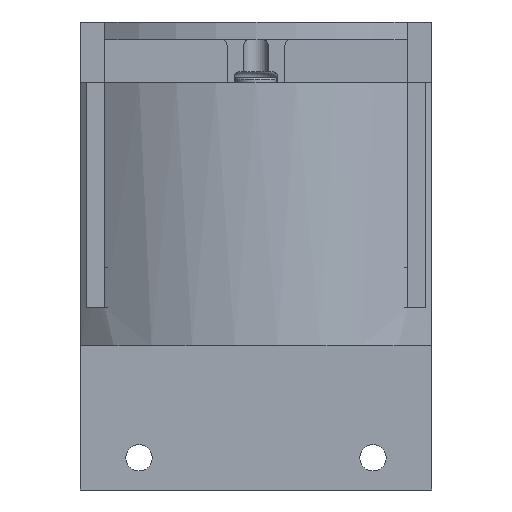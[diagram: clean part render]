
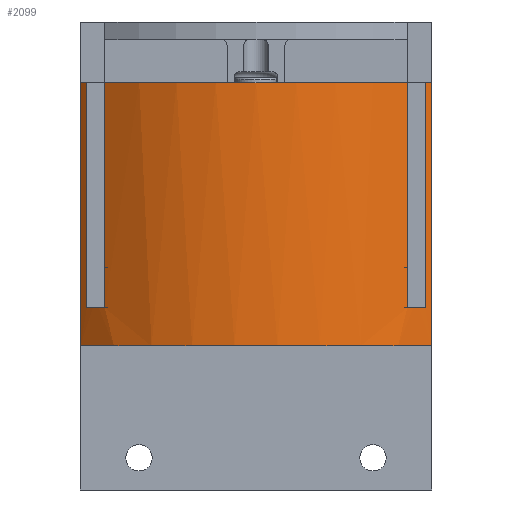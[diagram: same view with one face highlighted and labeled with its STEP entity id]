
A CAD part, front view. The second image highlights one B-rep face of the part: STEP entity #2099.
In plain terms, the highlighted cylindrical face has radius 43.5 mm (diameter 87 mm), a partial arc.
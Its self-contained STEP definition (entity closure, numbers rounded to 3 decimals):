
#123=CIRCLE('',#2337,43.5);
#126=CIRCLE('',#2342,43.5);
#129=CIRCLE('',#2349,43.5);
#130=CIRCLE('',#2350,43.5);
#139=CIRCLE('',#2378,43.5);
#140=CIRCLE('',#2382,43.5);
#207=CYLINDRICAL_SURFACE('',#2381,43.5);
#269=FACE_OUTER_BOUND('',#400,.T.);
#400=EDGE_LOOP('',(#1587,#1588,#1589,#1590,#1591,#1592,#1593,#1594,#1595,
#1596,#1597,#1598));
#500=LINE('',#3366,#695);
#506=LINE('',#3378,#701);
#530=LINE('',#3446,#725);
#558=LINE('',#3522,#753);
#559=LINE('',#3524,#754);
#561=LINE('',#3527,#756);
#695=VECTOR('',#2608,10.);
#701=VECTOR('',#2616,10.);
#725=VECTOR('',#2674,10.);
#753=VECTOR('',#2756,10.);
#754=VECTOR('',#2759,10.);
#756=VECTOR('',#2763,10.);
#895=VERTEX_POINT('',#3362);
#897=VERTEX_POINT('',#3365);
#900=VERTEX_POINT('',#3372);
#902=VERTEX_POINT('',#3376);
#905=VERTEX_POINT('',#3384);
#911=VERTEX_POINT('',#3401);
#919=VERTEX_POINT('',#3421);
#920=VERTEX_POINT('',#3423);
#923=VERTEX_POINT('',#3430);
#924=VERTEX_POINT('',#3432);
#929=VERTEX_POINT('',#3444);
#950=VERTEX_POINT('',#3518);
#1108=EDGE_CURVE('',#897,#895,#500,.T.);
#1114=EDGE_CURVE('',#900,#902,#506,.T.);
#1118=EDGE_CURVE('',#905,#895,#123,.T.);
#1126=EDGE_CURVE('',#900,#911,#126,.T.);
#1137=EDGE_CURVE('',#920,#919,#129,.T.);
#1142=EDGE_CURVE('',#924,#923,#130,.T.);
#1149=EDGE_CURVE('',#919,#929,#530,.T.);
#1186=EDGE_CURVE('',#950,#929,#139,.T.);
#1187=EDGE_CURVE('',#905,#920,#558,.T.);
#1188=EDGE_CURVE('',#923,#911,#559,.T.);
#1190=EDGE_CURVE('',#950,#924,#561,.T.);
#1191=EDGE_CURVE('',#897,#902,#140,.T.);
#1587=ORIENTED_EDGE('',*,*,#1108,.T.);
#1588=ORIENTED_EDGE('',*,*,#1118,.F.);
#1589=ORIENTED_EDGE('',*,*,#1187,.T.);
#1590=ORIENTED_EDGE('',*,*,#1137,.T.);
#1591=ORIENTED_EDGE('',*,*,#1149,.T.);
#1592=ORIENTED_EDGE('',*,*,#1186,.F.);
#1593=ORIENTED_EDGE('',*,*,#1190,.T.);
#1594=ORIENTED_EDGE('',*,*,#1142,.T.);
#1595=ORIENTED_EDGE('',*,*,#1188,.T.);
#1596=ORIENTED_EDGE('',*,*,#1126,.F.);
#1597=ORIENTED_EDGE('',*,*,#1114,.T.);
#1598=ORIENTED_EDGE('',*,*,#1191,.F.);
#2099=ADVANCED_FACE('',(#269),#207,.T.);
#2337=AXIS2_PLACEMENT_3D('',#3386,#2622,#2623);
#2342=AXIS2_PLACEMENT_3D('',#3402,#2637,#2638);
#2349=AXIS2_PLACEMENT_3D('',#3424,#2657,#2658);
#2350=AXIS2_PLACEMENT_3D('',#3433,#2663,#2664);
#2378=AXIS2_PLACEMENT_3D('',#3520,#2752,#2753);
#2381=AXIS2_PLACEMENT_3D('',#3526,#2761,#2762);
#2382=AXIS2_PLACEMENT_3D('',#3528,#2764,#2765);
#2608=DIRECTION('',(0.,0.,-1.));
#2616=DIRECTION('',(0.,0.,1.));
#2622=DIRECTION('center_axis',(0.,0.,-1.));
#2623=DIRECTION('ref_axis',(0.702,0.713,0.));
#2637=DIRECTION('center_axis',(0.,0.,-1.));
#2638=DIRECTION('ref_axis',(0.702,0.713,0.));
#2657=DIRECTION('center_axis',(0.,0.,1.));
#2658=DIRECTION('ref_axis',(0.702,0.713,0.));
#2663=DIRECTION('center_axis',(0.,0.,1.));
#2664=DIRECTION('ref_axis',(0.702,0.713,0.));
#2674=DIRECTION('',(0.,0.,-1.));
#2752=DIRECTION('center_axis',(0.,0.,-1.));
#2753=DIRECTION('ref_axis',(0.702,0.713,0.));
#2756=DIRECTION('',(0.,0.,1.));
#2759=DIRECTION('',(0.,0.,-1.));
#2761=DIRECTION('center_axis',(0.,0.,1.));
#2762=DIRECTION('ref_axis',(0.702,0.713,0.));
#2763=DIRECTION('',(0.,0.,1.));
#2764=DIRECTION('center_axis',(0.,0.,1.));
#2765=DIRECTION('ref_axis',(0.702,0.713,0.));
#3362=CARTESIAN_POINT('',(30.016,0.484,-22.5));
#3365=CARTESIAN_POINT('',(30.016,0.484,22.5));
#3366=CARTESIAN_POINT('',(30.016,0.484,0.));
#3372=CARTESIAN_POINT('',(-30.016,0.484,-22.5));
#3376=CARTESIAN_POINT('',(-30.016,0.484,22.5));
#3378=CARTESIAN_POINT('',(-30.016,0.484,0.));
#3384=CARTESIAN_POINT('',(28.914,1.5,-22.5));
#3386=CARTESIAN_POINT('Origin',(0.,-31.,-22.5));
#3401=CARTESIAN_POINT('',(-28.914,1.5,-22.5));
#3402=CARTESIAN_POINT('Origin',(0.,-31.,-22.5));
#3421=CARTESIAN_POINT('',(25.831,4.,16.));
#3423=CARTESIAN_POINT('',(28.914,1.5,16.));
#3424=CARTESIAN_POINT('Origin',(0.,-31.,16.));
#3430=CARTESIAN_POINT('',(-28.914,1.5,16.));
#3432=CARTESIAN_POINT('',(-25.831,4.,16.));
#3433=CARTESIAN_POINT('Origin',(0.,-31.,16.));
#3444=CARTESIAN_POINT('',(25.831,4.,-22.5));
#3446=CARTESIAN_POINT('',(25.831,4.,0.));
#3518=CARTESIAN_POINT('',(-25.831,4.,-22.5));
#3520=CARTESIAN_POINT('Origin',(0.,-31.,-22.5));
#3522=CARTESIAN_POINT('',(28.914,1.5,0.));
#3524=CARTESIAN_POINT('',(-28.914,1.5,0.));
#3526=CARTESIAN_POINT('Origin',(0.,-31.,0.));
#3527=CARTESIAN_POINT('',(-25.831,4.,0.));
#3528=CARTESIAN_POINT('Origin',(0.,-31.,22.5));
